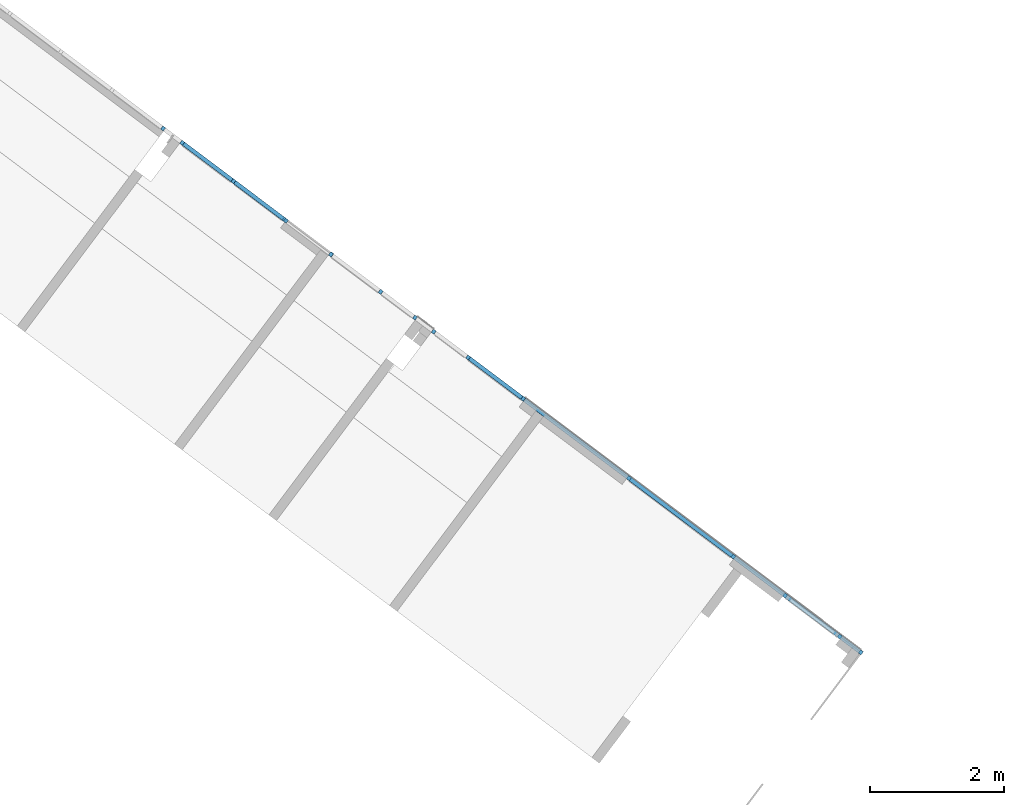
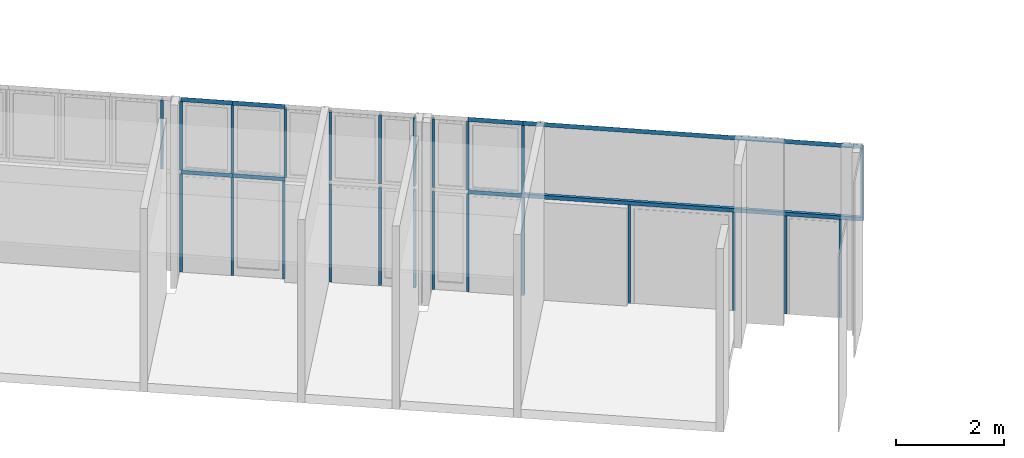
# One storey, part 2 of 18: 32 members, 6 elements without a shape of their own.
"""IFC2X3 building model written with IfcOpenShell, lengths in metres."""

from ifc_helpers import new_model, entity, si_unit, converted_unit, derived_unit, direction, frame, frame_2d, origin, origin_2d_with_axis, place, context, subcontext, project, spatial, polyline, rectangle, outline, extrude, source, transform, mapped, material, type_object, type_shapes, element, aggregate, save


model = new_model("IFC2X3")

# Units and contexts
model_context = context("Model", 3, precision=1e-05, world=origin(), true_north=direction((6.123031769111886e-17, 1.0)))
body_context = subcontext(model_context, "Body", "Model", "MODEL_VIEW")
ifc_project = project(units=[si_unit("LENGTHUNIT", "METRE"), si_unit("AREAUNIT", "SQUARE_METRE"), si_unit("VOLUMEUNIT", "CUBIC_METRE"), converted_unit("PLANEANGLEUNIT", "DEGREE", entity("IfcRatioMeasure", 0.017453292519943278), si_unit("PLANEANGLEUNIT", "RADIAN"), dimensions=[0, 0, 0, 0, 0, 0, 0]), si_unit("MASSUNIT", "GRAM", prefix="KILO"), derived_unit("MASSDENSITYUNIT", [(si_unit("MASSUNIT", "GRAM", prefix="KILO"), 1), (si_unit("LENGTHUNIT", "METRE"), -3)]), derived_unit("IONCONCENTRATIONUNIT", [(si_unit("MASSUNIT", "GRAM", prefix="KILO"), 1), (si_unit("LENGTHUNIT", "METRE"), -3)]), derived_unit("MOMENTOFINERTIAUNIT", [(si_unit("LENGTHUNIT", "METRE"), 4)]), si_unit("TIMEUNIT", "SECOND"), si_unit("FREQUENCYUNIT", "HERTZ"), si_unit("THERMODYNAMICTEMPERATUREUNIT", "DEGREE_CELSIUS"), derived_unit("THERMALTRANSMITTANCEUNIT", [(si_unit("MASSUNIT", "GRAM", prefix="KILO"), 1), (si_unit("THERMODYNAMICTEMPERATUREUNIT", "KELVIN"), -1), (si_unit("TIMEUNIT", "SECOND"), -3)]), derived_unit("THERMALCONDUCTANCEUNIT", [(si_unit("MASSUNIT", "GRAM", prefix="KILO"), 1), (si_unit("THERMODYNAMICTEMPERATUREUNIT", "KELVIN"), -1), (si_unit("TIMEUNIT", "SECOND"), -3), (si_unit("LENGTHUNIT", "METRE"), 1)]), derived_unit("VOLUMETRICFLOWRATEUNIT", [(si_unit("LENGTHUNIT", "METRE"), 3), (si_unit("TIMEUNIT", "SECOND"), -1)]), derived_unit("MASSFLOWRATEUNIT", [(si_unit("MASSUNIT", "GRAM", prefix="KILO"), 1), (si_unit("TIMEUNIT", "SECOND"), -1)]), derived_unit("ROTATIONALFREQUENCYUNIT", [(si_unit("TIMEUNIT", "SECOND"), -1)]), si_unit("ELECTRICCURRENTUNIT", "AMPERE"), si_unit("ELECTRICVOLTAGEUNIT", "VOLT"), si_unit("POWERUNIT", "WATT"), si_unit("FORCEUNIT", "NEWTON", prefix="KILO"), si_unit("ILLUMINANCEUNIT", "LUX"), si_unit("LUMINOUSFLUXUNIT", "LUMEN"), si_unit("LUMINOUSINTENSITYUNIT", "CANDELA"), derived_unit("USERDEFINED", [(si_unit("MASSUNIT", "GRAM", prefix="KILO"), -1), (si_unit("LENGTHUNIT", "METRE"), -2), (si_unit("TIMEUNIT", "SECOND"), 3), (si_unit("LUMINOUSFLUXUNIT", "LUMEN"), 1)]), derived_unit("USERDEFINED", [(si_unit("MASSUNIT", "GRAM", prefix="KILO"), 1), (si_unit("TIMEUNIT", "SECOND"), -3), (si_unit("LENGTHUNIT", "METRE"), 3), (si_unit("ELECTRICCURRENTUNIT", "AMPERE"), -2)]), derived_unit("SOUNDPOWERUNIT", [(si_unit("MASSUNIT", "GRAM", prefix="KILO"), 1), (si_unit("TIMEUNIT", "SECOND"), -3), (si_unit("LENGTHUNIT", "METRE"), 2)]), derived_unit("SOUNDPRESSUREUNIT", [(si_unit("MASSUNIT", "GRAM", prefix="KILO"), 1), (si_unit("LENGTHUNIT", "METRE"), -1), (si_unit("TIMEUNIT", "SECOND"), -2)]), derived_unit("LINEARVELOCITYUNIT", [(si_unit("LENGTHUNIT", "METRE"), 1), (si_unit("TIMEUNIT", "SECOND"), -1)]), si_unit("PRESSUREUNIT", "PASCAL"), derived_unit("USERDEFINED", [(si_unit("MASSUNIT", "GRAM", prefix="KILO"), 1), (si_unit("LENGTHUNIT", "METRE"), -2), (si_unit("TIMEUNIT", "SECOND"), -2)]), derived_unit("LINEARFORCEUNIT", [(si_unit("MASSUNIT", "GRAM", prefix="KILO"), 1), (si_unit("TIMEUNIT", "SECOND"), -2)]), derived_unit("PLANARFORCEUNIT", [(si_unit("MASSUNIT", "GRAM", prefix="KILO"), 1), (si_unit("LENGTHUNIT", "METRE"), -1), (si_unit("TIMEUNIT", "SECOND"), -2)]), derived_unit("SPECIFICHEATCAPACITYUNIT", [(si_unit("THERMODYNAMICTEMPERATUREUNIT", "KELVIN"), -1), (si_unit("LENGTHUNIT", "METRE"), 2), (si_unit("TIMEUNIT", "SECOND"), -2)]), derived_unit("HEATINGVALUEUNIT", [(si_unit("LENGTHUNIT", "METRE"), 2), (si_unit("TIMEUNIT", "SECOND"), -2)]), derived_unit("VAPORPERMEABILITYUNIT", [(si_unit("LENGTHUNIT", "METRE"), -1), (si_unit("TIMEUNIT", "SECOND"), 1)]), derived_unit("DYNAMICVISCOSITYUNIT", [(si_unit("MASSUNIT", "GRAM", prefix="KILO"), 1), (si_unit("TIMEUNIT", "SECOND"), -1), (si_unit("LENGTHUNIT", "METRE"), -1)]), derived_unit("THERMALEXPANSIONCOEFFICIENTUNIT", [(si_unit("THERMODYNAMICTEMPERATUREUNIT", "KELVIN"), -1)]), derived_unit("MODULUSOFELASTICITYUNIT", [(si_unit("MASSUNIT", "GRAM", prefix="KILO"), 1), (si_unit("LENGTHUNIT", "METRE"), -1), (si_unit("TIMEUNIT", "SECOND"), -2)]), derived_unit("ISOTHERMALMOISTURECAPACITYUNIT", [(si_unit("LENGTHUNIT", "METRE"), 3), (si_unit("MASSUNIT", "GRAM", prefix="KILO"), -1)]), derived_unit("MOISTUREDIFFUSIVITYUNIT", [(si_unit("TIMEUNIT", "SECOND"), -1), (si_unit("LENGTHUNIT", "METRE"), 2)])], contexts=[model_context])

# Site, building, storey
site_placement = place(None, frame((0.0, 0.0, 235.0), z_axis=(0.0, 0.0, 1.0), x_axis=(-0.7996477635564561, 0.6004693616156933, 0.0)))
site = spatial("IfcSite", under=ifc_project, at=site_placement, Name="Default", CompositionType="ELEMENT")
building_placement = place(site_placement, origin())
building = spatial("IfcBuilding", under=site, at=building_placement, CompositionType="ELEMENT")
storey_placement = place(building_placement, frame((0.0, 0.0, -4.459999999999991)))
storey = spatial("IfcBuildingStorey", under=building, at=storey_placement, Name="PS1- Vestuari", CompositionType="ELEMENT", Elevation=-4.459999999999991)

# Curtain wall, members
curtain_wall_type = type_object("IfcCurtainWallType", Name="Muro cortina:MC- EXT- AL6", PredefinedType="NOTDEFINED")
curtain_wall_1_placement = place(storey_placement, frame((0.0, 0.0, 4.459999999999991)))
curtain_wall_1 = element("IfcCurtainWall", 1, at=curtain_wall_1_placement, inside=storey, type_object=curtain_wall_type, Name="Muro cortina:MC- EXT- AL6", ObjectType="Muro cortina:MC- EXT- AL6")
ifc_material = material(Name="_Alumini- T1- Perfil")
member_type_1 = type_object("IfcMemberType", Name="Montante rectangular:MC- Alu- 52x80 cm- Fa pista- inferior", PredefinedType="MULLION", material=ifc_material)
shared_shape_1 = source(origin(), body_context, "Body", "SweptSolid", [
    extrude(rectangle(XDim=0.06000000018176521, YDim=0.085, at=origin_2d_with_axis()), frame((-0.0425, -0.030000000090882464, -6.335500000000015), z_axis=(0.0, 0.0, 1.0), x_axis=(0.0, -1.0, 0.0)), (0.0, 0.0, 1.0), 6.335500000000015),
])
type_shapes(member_type_1, [shared_shape_1])
member_1_placement = place(curtain_wall_1_placement, frame((41.015147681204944, -40.465191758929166, -2.2499999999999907), z_axis=(-1.0, 0.0, 0.0), x_axis=(0.0, 0.0, -1.0)))
member_1 = element("IfcMember", 2, at=member_1_placement, type_object=member_type_1, material=ifc_material, Name="Montante rectangular:MC- Alu- 52x80 cm- Fa pista- inferior", ObjectType="Montante rectangular:MC- Alu- 52x80 cm- Fa pista- inferior", context=body_context, shape_type="MappedRepresentation", body=[
    mapped(shared_shape_1, transform((0.0, 0.0, 0.0), scale=1.0)),
])
member_type_2 = type_object("IfcMemberType", Name="Montante rectangular:MC- Alu- 50x60 cm- Fa pista- Centre", PredefinedType="MULLION", material=ifc_material)
shared_shape_2 = source(origin(), body_context, "Body", "SweptSolid", [
    extrude(rectangle(XDim=0.0600000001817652, YDim=0.05, at=frame_2d((8.673617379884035e-18, 0.0), x_axis=(1.0, 0.0))), frame((0.0, -0.030000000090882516, -1.5474999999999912), z_axis=(0.0, 0.0, 1.0), x_axis=(0.0, -1.0, 0.0)), (0.0, 0.0, 1.0), 1.5474999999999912),
])
type_shapes(member_type_2, [shared_shape_2])
member_2_placement = place(curtain_wall_1_placement, frame((54.07614768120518, -40.4651917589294, -2.164999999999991), z_axis=(0.0, 0.0, -1.0), x_axis=(1.0, 0.0, 0.0)))
member_2 = element("IfcMember", 3, at=member_2_placement, type_object=member_type_2, material=ifc_material, Name="Montante rectangular:MC- Alu- 50x60 cm- Fa pista- Centre", ObjectType="Montante rectangular:MC- Alu- 50x60 cm- Fa pista- Centre", context=body_context, shape_type="MappedRepresentation", body=[
    mapped(shared_shape_2, transform((0.0, 0.0, 0.0), scale=1.0)),
])
member_3_placement = place(curtain_wall_1_placement, frame((53.72014768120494, -40.46519175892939, -2.164999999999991), z_axis=(0.0, 0.0, -1.0), x_axis=(1.0, 0.0, 0.0)))
member_3 = element("IfcMember", 4, at=member_3_placement, type_object=member_type_2, material=ifc_material, Name="Montante rectangular:MC- Alu- 50x60 cm- Fa pista- Centre", ObjectType="Montante rectangular:MC- Alu- 50x60 cm- Fa pista- Centre", context=body_context, shape_type="MappedRepresentation", body=[
    mapped(shared_shape_2, transform((0.0, 0.0, 0.0), scale=1.0)),
])
member_4_placement = place(curtain_wall_1_placement, frame((51.78114768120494, -40.46519175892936, -2.164999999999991), z_axis=(0.0, 0.0, -1.0), x_axis=(1.0, 0.0, 0.0)))
member_4 = element("IfcMember", 5, at=member_4_placement, type_object=member_type_2, material=ifc_material, Name="Montante rectangular:MC- Alu- 50x60 cm- Fa pista- Centre", ObjectType="Montante rectangular:MC- Alu- 50x60 cm- Fa pista- Centre", context=body_context, shape_type="MappedRepresentation", body=[
    mapped(shared_shape_2, transform((0.0, 0.0, 0.0), scale=1.0)),
])
member_5_placement = place(curtain_wall_1_placement, frame((52.76314768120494, -40.46519175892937, -2.164999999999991), z_axis=(0.0, 0.0, -1.0), x_axis=(1.0, 0.0, 0.0)))
member_5 = element("IfcMember", 6, at=member_5_placement, type_object=member_type_2, material=ifc_material, Name="Montante rectangular:MC- Alu- 50x60 cm- Fa pista- Centre", ObjectType="Montante rectangular:MC- Alu- 50x60 cm- Fa pista- Centre", context=body_context, shape_type="MappedRepresentation", body=[
    mapped(shared_shape_2, transform((0.0, 0.0, 0.0), scale=1.0)),
])
member_6_placement = place(curtain_wall_1_placement, frame((50.94114768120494, -40.46519175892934, -2.164999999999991), z_axis=(0.0, 0.0, -1.0), x_axis=(1.0, 0.0, 0.0)))
member_6 = element("IfcMember", 7, at=member_6_placement, type_object=member_type_2, material=ifc_material, Name="Montante rectangular:MC- Alu- 50x60 cm- Fa pista- Centre", ObjectType="Montante rectangular:MC- Alu- 50x60 cm- Fa pista- Centre", context=body_context, shape_type="MappedRepresentation", body=[
    mapped(shared_shape_2, transform((0.0, 0.0, 0.0), scale=1.0)),
])
member_7_placement = place(curtain_wall_1_placement, frame((50.012147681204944, -40.46519175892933, -2.164999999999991), z_axis=(0.0, 0.0, -1.0), x_axis=(1.0, 0.0, 0.0)))
member_7 = element("IfcMember", 8, at=member_7_placement, type_object=member_type_2, material=ifc_material, Name="Montante rectangular:MC- Alu- 50x60 cm- Fa pista- Centre", ObjectType="Montante rectangular:MC- Alu- 50x60 cm- Fa pista- Centre", context=body_context, shape_type="MappedRepresentation", body=[
    mapped(shared_shape_2, transform((0.0, 0.0, 0.0), scale=1.0)),
])
member_8_placement = place(curtain_wall_1_placement, frame((49.37014768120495, -40.465191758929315, -2.164999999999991), z_axis=(0.0, 0.0, -1.0), x_axis=(1.0, 0.0, 0.0)))
member_8 = element("IfcMember", 9, at=member_8_placement, type_object=member_type_2, material=ifc_material, Name="Montante rectangular:MC- Alu- 50x60 cm- Fa pista- Centre", ObjectType="Montante rectangular:MC- Alu- 50x60 cm- Fa pista- Centre", context=body_context, shape_type="MappedRepresentation", body=[
    mapped(shared_shape_2, transform((0.0, 0.0, 0.0), scale=1.0)),
])
member_9_placement = place(curtain_wall_1_placement, frame((49.020147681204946, -40.46519175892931, -2.164999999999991), z_axis=(0.0, 0.0, -1.0), x_axis=(1.0, 0.0, 0.0)))
member_9 = element("IfcMember", 10, at=member_9_placement, type_object=member_type_2, material=ifc_material, Name="Montante rectangular:MC- Alu- 50x60 cm- Fa pista- Centre", ObjectType="Montante rectangular:MC- Alu- 50x60 cm- Fa pista- Centre", context=body_context, shape_type="MappedRepresentation", body=[
    mapped(shared_shape_2, transform((0.0, 0.0, 0.0), scale=1.0)),
])
member_10_placement = place(curtain_wall_1_placement, frame((48.378147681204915, -40.4651917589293, -2.164999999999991), z_axis=(0.0, 0.0, -1.0), x_axis=(1.0, 0.0, 0.0)))
member_10 = element("IfcMember", 11, at=member_10_placement, type_object=member_type_2, material=ifc_material, Name="Montante rectangular:MC- Alu- 50x60 cm- Fa pista- Centre", ObjectType="Montante rectangular:MC- Alu- 50x60 cm- Fa pista- Centre", context=body_context, shape_type="MappedRepresentation", body=[
    mapped(shared_shape_2, transform((0.0, 0.0, 0.0), scale=1.0)),
])
member_11_placement = place(curtain_wall_1_placement, frame((47.35064768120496, -40.46519175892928, -2.164999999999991), z_axis=(0.0, 0.0, -1.0), x_axis=(1.0, 0.0, 0.0)))
member_11 = element("IfcMember", 12, at=member_11_placement, type_object=member_type_2, material=ifc_material, Name="Montante rectangular:MC- Alu- 50x60 cm- Fa pista- Centre", ObjectType="Montante rectangular:MC- Alu- 50x60 cm- Fa pista- Centre", context=body_context, shape_type="MappedRepresentation", body=[
    mapped(shared_shape_2, transform((0.0, 0.0, 0.0), scale=1.0)),
])
member_type_3 = type_object("IfcMemberType", Name="Montante rectangular:MC- Alu- 140x52,5 cm- Fa pista- Superior", PredefinedType="MULLION", material=ifc_material)
shared_shape_3 = source(origin(), body_context, "Body", "SweptSolid", [
    extrude(outline(polyline([(-0.03933333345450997, -0.04916666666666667), (0.02066666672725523, -0.04916666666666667), (0.020666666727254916, 0.048333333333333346), (0.018666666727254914, 0.04833333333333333), (0.018666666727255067, 0.00083333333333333), (-0.03933333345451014, 0.00083333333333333), (-0.03933333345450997, -0.04916666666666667)])), frame((-0.048333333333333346, -0.03933333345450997, -0.9570000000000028), z_axis=(0.0, 0.0, 1.0), x_axis=(0.0, -1.0, 0.0)), (0.0, 0.0, 1.0), 0.9569999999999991),
])
type_shapes(member_type_3, [shared_shape_3])
member_12_placement = place(curtain_wall_1_placement, frame((53.72014768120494, -40.46519175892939, -0.52), z_axis=(1.0, 0.0, 0.0), x_axis=(0.0, 0.0, 1.0)))
member_12 = element("IfcMember", 13, at=member_12_placement, type_object=member_type_3, material=ifc_material, Name="Montante rectangular:MC- Alu- 140x52,5 cm- Fa pista- Superior", ObjectType="Montante rectangular:MC- Alu- 140x52,5 cm- Fa pista- Superior", context=body_context, shape_type="MappedRepresentation", body=[
    mapped(shared_shape_3, transform((0.0, 0.0, 0.0), scale=1.0)),
])
member_type_4 = type_object("IfcMemberType", Name="Montante rectangular:MC- Alu- 52x80 cm- Fa pista- inferior", PredefinedType="MULLION", material=ifc_material)
shared_shape_4 = source(origin(), body_context, "Body", "SweptSolid", [
    extrude(rectangle(XDim=0.06000000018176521, YDim=0.085, at=origin_2d_with_axis()), frame((-0.0425, -0.030000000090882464, -0.9820000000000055), z_axis=(0.0, 0.0, 1.0), x_axis=(0.0, -1.0, 0.0)), (0.0, 0.0, 1.0), 0.982000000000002),
])
type_shapes(member_type_4, [shared_shape_4])
member_13_placement = place(curtain_wall_1_placement, frame((51.78114768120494, -40.46519175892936, -2.249999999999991), z_axis=(-1.0, 0.0, 0.0), x_axis=(0.0, 0.0, -1.0)))
member_13 = element("IfcMember", 14, at=member_13_placement, type_object=member_type_4, material=ifc_material, Name="Montante rectangular:MC- Alu- 52x80 cm- Fa pista- inferior", ObjectType="Montante rectangular:MC- Alu- 52x80 cm- Fa pista- inferior", context=body_context, shape_type="MappedRepresentation", body=[
    mapped(shared_shape_4, transform((0.0, 0.0, 0.0), scale=1.0)),
])
member_type_5 = type_object("IfcMemberType", Name="Montante rectangular:MC- Alu- 140x52,5 cm- Fa pista- Superior", PredefinedType="MULLION", material=ifc_material)
shared_shape_5 = source(origin(), body_context, "Body", "SweptSolid", [
    extrude(outline(polyline([(-0.03933333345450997, -0.04916666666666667), (0.02066666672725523, -0.04916666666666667), (0.020666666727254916, 0.048333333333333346), (0.018666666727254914, 0.04833333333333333), (0.018666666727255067, 0.00083333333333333), (-0.03933333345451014, 0.00083333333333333), (-0.03933333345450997, -0.04916666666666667)])), frame((-0.048333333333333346, -0.03933333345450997, -0.9819999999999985), z_axis=(0.0, 0.0, 1.0), x_axis=(0.0, -1.0, 0.0)), (0.0, 0.0, 1.0), 0.982000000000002),
])
type_shapes(member_type_5, [shared_shape_5])
member_14_placement = place(curtain_wall_1_placement, frame((52.76314768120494, -40.465191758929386, -0.52), z_axis=(1.0, 0.0, 0.0), x_axis=(0.0, 0.0, 1.0)))
member_14 = element("IfcMember", 15, at=member_14_placement, type_object=member_type_5, material=ifc_material, Name="Montante rectangular:MC- Alu- 140x52,5 cm- Fa pista- Superior", ObjectType="Montante rectangular:MC- Alu- 140x52,5 cm- Fa pista- Superior", context=body_context, shape_type="MappedRepresentation", body=[
    mapped(shared_shape_5, transform((0.0, 0.0, 0.0), scale=1.0)),
])
member_type_6 = type_object("IfcMemberType", Name="Montante rectangular:MC- Alu- 52x80 cm- Fa pista- inferior", PredefinedType="MULLION", material=ifc_material)
shared_shape_6 = source(origin(), body_context, "Body", "SweptSolid", [
    extrude(rectangle(XDim=0.06000000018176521, YDim=0.085, at=origin_2d_with_axis()), frame((-0.0425, -0.030000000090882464, -0.9569999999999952), z_axis=(0.0, 0.0, 1.0), x_axis=(0.0, -1.0, 0.0)), (0.0, 0.0, 1.0), 0.9569999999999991),
])
type_shapes(member_type_6, [shared_shape_6])
member_15_placement = place(curtain_wall_1_placement, frame((52.76314768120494, -40.46519175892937, -2.249999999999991), z_axis=(-1.0, 0.0, 0.0), x_axis=(0.0, 0.0, -1.0)))
member_15 = element("IfcMember", 16, at=member_15_placement, type_object=member_type_6, material=ifc_material, Name="Montante rectangular:MC- Alu- 52x80 cm- Fa pista- inferior", ObjectType="Montante rectangular:MC- Alu- 52x80 cm- Fa pista- inferior", context=body_context, shape_type="MappedRepresentation", body=[
    mapped(shared_shape_6, transform((0.0, 0.0, 0.0), scale=1.0)),
])
member_type_7 = type_object("IfcMemberType", Name="Montante rectangular:MC- Alu- 140x52,5 cm- Fa pista- Superior", PredefinedType="MULLION", material=ifc_material)
shared_shape_7 = source(origin(), body_context, "Body", "SweptSolid", [
    extrude(outline(polyline([(-0.03933333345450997, -0.04916666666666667), (0.02066666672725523, -0.04916666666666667), (0.020666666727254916, 0.048333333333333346), (0.018666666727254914, 0.04833333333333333), (0.018666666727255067, 0.00083333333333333), (-0.03933333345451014, 0.00083333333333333), (-0.03933333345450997, -0.04916666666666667)])), frame((-0.048333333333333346, -0.03933333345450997, -1.027499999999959), z_axis=(0.0, 0.0, 1.0), x_axis=(0.0, -1.0, 0.0)), (0.0, 0.0, 1.0), 1.027499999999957),
])
type_shapes(member_type_7, [shared_shape_7])
member_16_placement = place(curtain_wall_1_placement, frame((48.378147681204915, -40.4651917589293, -0.52), z_axis=(1.0, 0.0, 0.0), x_axis=(0.0, 0.0, 1.0)))
member_16 = element("IfcMember", 17, at=member_16_placement, type_object=member_type_7, material=ifc_material, Name="Montante rectangular:MC- Alu- 140x52,5 cm- Fa pista- Superior", ObjectType="Montante rectangular:MC- Alu- 140x52,5 cm- Fa pista- Superior", context=body_context, shape_type="MappedRepresentation", body=[
    mapped(shared_shape_7, transform((0.0, 0.0, 0.0), scale=1.0)),
])
member_type_8 = type_object("IfcMemberType", Name="Montante rectangular:MC- Alu- 52x80 cm- Fa pista- inferior", PredefinedType="MULLION", material=ifc_material)
shared_shape_8 = source(origin(), body_context, "Body", "SweptSolid", [
    extrude(rectangle(XDim=0.06000000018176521, YDim=0.085, at=origin_2d_with_axis()), frame((-0.0425, -0.030000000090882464, -1.0274999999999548), z_axis=(0.0, 0.0, 1.0), x_axis=(0.0, -1.0, 0.0)), (0.0, 0.0, 1.0), 1.027499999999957),
])
type_shapes(member_type_8, [shared_shape_8])
member_17_placement = place(curtain_wall_1_placement, frame((47.35064768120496, -40.46519175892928, -2.249999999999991), z_axis=(-1.0, 0.0, 0.0), x_axis=(0.0, 0.0, -1.0)))
member_17 = element("IfcMember", 18, at=member_17_placement, type_object=member_type_8, material=ifc_material, Name="Montante rectangular:MC- Alu- 52x80 cm- Fa pista- inferior", ObjectType="Montante rectangular:MC- Alu- 52x80 cm- Fa pista- inferior", context=body_context, shape_type="MappedRepresentation", body=[
    mapped(shared_shape_8, transform((0.0, 0.0, 0.0), scale=1.0)),
])
member_type_9 = type_object("IfcMemberType", Name="Montante rectangular:MC- Alu- 140x52,5 cm- Fa pista- Superior", PredefinedType="MULLION", material=ifc_material)
shared_shape_9 = source(origin(), body_context, "Body", "SweptSolid", [
    extrude(outline(polyline([(-0.03933333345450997, -0.04916666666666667), (0.02066666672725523, -0.04916666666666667), (0.020666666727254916, 0.048333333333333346), (0.018666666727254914, 0.04833333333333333), (0.018666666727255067, 0.00083333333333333), (-0.03933333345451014, 0.00083333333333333), (-0.03933333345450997, -0.04916666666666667)])), frame((-0.048333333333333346, -0.03933333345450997, -6.335500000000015), z_axis=(0.0, 0.0, 1.0), x_axis=(0.0, -1.0, 0.0)), (0.0, 0.0, 1.0), 6.335500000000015),
])
type_shapes(member_type_9, [shared_shape_9])
member_18_placement = place(curtain_wall_1_placement, frame((47.35064768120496, -40.46519175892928, -0.52), z_axis=(1.0, 0.0, 0.0), x_axis=(0.0, 0.0, 1.0)))
member_18 = element("IfcMember", 19, at=member_18_placement, type_object=member_type_9, material=ifc_material, Name="Montante rectangular:MC- Alu- 140x52,5 cm- Fa pista- Superior", ObjectType="Montante rectangular:MC- Alu- 140x52,5 cm- Fa pista- Superior", context=body_context, shape_type="MappedRepresentation", body=[
    mapped(shared_shape_9, transform((0.0, 0.0, 0.0), scale=1.0)),
])
member_type_10 = type_object("IfcMemberType", Name="Montante rectangular:MC- Alu- 50x60 cm- Fa pista- Centre", PredefinedType="MULLION", material=ifc_material)
shared_shape_10 = source(origin(), body_context, "Body", "SweptSolid", [
    extrude(rectangle(XDim=0.0600000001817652, YDim=0.05, at=origin_2d_with_axis()), frame((-0.025, -0.030000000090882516, -1.5474999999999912), z_axis=(0.0, 0.0, 1.0), x_axis=(0.0, -1.0, 0.0)), (0.0, 0.0, 1.0), 1.5474999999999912),
])
type_shapes(member_type_10, [shared_shape_10])
member_19_placement = place(curtain_wall_1_placement, frame((41.015147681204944, -40.465191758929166, -0.6174999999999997), z_axis=(0.0, 0.0, 1.0), x_axis=(-1.0, 0.0, 0.0)))
member_19 = element("IfcMember", 20, at=member_19_placement, type_object=member_type_10, material=ifc_material, Name="Montante rectangular:MC- Alu- 50x60 cm- Fa pista- Centre", ObjectType="Montante rectangular:MC- Alu- 50x60 cm- Fa pista- Centre", context=body_context, shape_type="MappedRepresentation", body=[
    mapped(shared_shape_10, transform((0.0, 0.0, 0.0), scale=1.0)),
])
aggregate(curtain_wall_1, [member_1, member_2, member_12, member_3, member_13, member_4, member_14, member_15, member_5, member_6, member_7, member_8, member_9, member_16, member_10, member_17, member_18, member_11, member_19])

curtain_wall_2_placement = place(storey_placement, frame((0.0, 0.0, 4.459999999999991)))
curtain_wall_2 = element("IfcCurtainWall", 21, at=curtain_wall_2_placement, inside=storey, type_object=curtain_wall_type, Name="Muro cortina:MC- EXT- AL6", ObjectType="Muro cortina:MC- EXT- AL6")
member_type_11 = type_object("IfcMemberType", Name="Montante rectangular:MC- Alu- 50x60 cm- Fa pista- Centre", PredefinedType="MULLION", material=ifc_material)
shared_shape_11 = source(origin(), body_context, "Body", "SweptSolid", [
    extrude(rectangle(XDim=0.0600000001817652, YDim=0.05, at=frame_2d((8.673617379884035e-18, 0.0), x_axis=(1.0, 0.0))), frame((0.0, 0.030000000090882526, -2.209941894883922), z_axis=(0.0, 0.0, 1.0), x_axis=(0.0, -1.0, 0.0)), (0.0, 0.0, 1.0), 2.209941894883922),
])
type_shapes(member_type_11, [shared_shape_11])
member_20_placement = place(curtain_wall_2_placement, frame((48.378147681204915, -40.46519175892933, -4.459999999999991), z_axis=(0.0, 0.0, -1.0), x_axis=(-1.0, 0.0, 0.0)))
member_20 = element("IfcMember", 22, at=member_20_placement, type_object=member_type_11, material=ifc_material, Name="Montante rectangular:MC- Alu- 50x60 cm- Fa pista- Centre", ObjectType="Montante rectangular:MC- Alu- 50x60 cm- Fa pista- Centre", context=body_context, shape_type="MappedRepresentation", body=[
    mapped(shared_shape_11, transform((0.0, 0.0, 0.0), scale=1.0)),
])
member_type_12 = type_object("IfcMemberType", Name="Montante rectangular:MC- Alu- 50x60 cm- Fa pista- Centre", PredefinedType="MULLION", material=ifc_material)
shared_shape_12 = source(origin(), body_context, "Body", "SweptSolid", [
    extrude(rectangle(XDim=0.06000000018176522, YDim=0.05, at=origin_2d_with_axis()), frame((-0.025, 0.03000000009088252, -2.2099418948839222), z_axis=(0.0, 0.0, 1.0), x_axis=(0.0, -1.0, 0.0)), (0.0, 0.0, 1.0), 2.2099418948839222),
])
type_shapes(member_type_12, [shared_shape_12])
member_21_placement = place(curtain_wall_2_placement, frame((49.04514768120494, -40.46519175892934, -2.2500581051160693)))
member_21 = element("IfcMember", 23, at=member_21_placement, type_object=member_type_12, material=ifc_material, Name="Montante rectangular:MC- Alu- 50x60 cm- Fa pista- Centre", ObjectType="Montante rectangular:MC- Alu- 50x60 cm- Fa pista- Centre", context=body_context, shape_type="MappedRepresentation", body=[
    mapped(shared_shape_12, transform((0.0, 0.0, 0.0), scale=1.0)),
])

# Curtain wall, member
curtain_wall_3_placement = place(storey_placement, frame((0.0, 0.0, 4.459999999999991)))
curtain_wall_3 = element("IfcCurtainWall", 24, at=curtain_wall_3_placement, inside=storey, type_object=curtain_wall_type, Name="Muro cortina:MC- EXT- AL6", ObjectType="Muro cortina:MC- EXT- AL6")
member_22_placement = place(curtain_wall_3_placement, frame((42.480147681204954, -40.46519175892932, -2.2500581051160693)))
member_22 = element("IfcMember", 25, at=member_22_placement, type_object=member_type_12, material=ifc_material, Name="Montante rectangular:MC- Alu- 50x60 cm- Fa pista- Centre", ObjectType="Montante rectangular:MC- Alu- 50x60 cm- Fa pista- Centre", context=body_context, shape_type="MappedRepresentation", body=[
    mapped(shared_shape_12, transform((0.0, 0.0, 0.0), scale=1.0)),
])

curtain_wall_4_placement = place(storey_placement, frame((0.0, 0.0, 4.459999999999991)))
curtain_wall_4 = element("IfcCurtainWall", 26, at=curtain_wall_4_placement, inside=storey, type_object=curtain_wall_type, Name="Muro cortina:MC- EXT- AL6", ObjectType="Muro cortina:MC- EXT- AL6")
member_type_13 = type_object("IfcMemberType", Name="Montante rectangular:Muntant53x 60 mm", PredefinedType="MULLION", material=ifc_material)
shared_shape_13 = source(origin(), body_context, "Body", "SweptSolid", [
    extrude(rectangle(XDim=0.06499994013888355, YDim=0.05299999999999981, at=frame_2d((-2.0816681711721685e-17, -3.469446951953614e-18), x_axis=(1.0, 0.0))), frame((-0.02649999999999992, -0.02749997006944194, -2.209941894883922), z_axis=(0.0, 0.0, 1.0), x_axis=(0.0, -1.0, 0.0)), (0.0, 0.0, 1.0), 2.209941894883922),
])
type_shapes(member_type_13, [shared_shape_13])
member_23_placement = place(curtain_wall_4_placement, frame((50.96614768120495, -40.46519175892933, -4.459999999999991), z_axis=(0.0, 0.0, -1.0), x_axis=(1.0, 0.0, 0.0)))
member_23 = element("IfcMember", 27, at=member_23_placement, type_object=member_type_13, material=ifc_material, Name="Montante rectangular:Muntant53x 60 mm", ObjectType="Montante rectangular:Muntant53x 60 mm", context=body_context, shape_type="MappedRepresentation", body=[
    mapped(shared_shape_13, transform((0.0, 0.0, 0.0), scale=1.0)),
])

curtain_wall_5_placement = place(storey_placement, frame((0.0, 0.0, 4.459999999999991)))
curtain_wall_5 = element("IfcCurtainWall", 28, at=curtain_wall_5_placement, inside=storey, type_object=curtain_wall_type, Name="Muro cortina:MC- EXT- AL6", ObjectType="Muro cortina:MC- EXT- AL6")
member_type_14 = type_object("IfcMemberType", Name="Montante rectangular:MC- Alu- 50x60 cm- Fa pista- Centre", PredefinedType="MULLION", material=ifc_material)
shared_shape_14 = source(origin(), body_context, "Body", "SweptSolid", [
    extrude(rectangle(XDim=0.0600000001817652, YDim=0.05, at=frame_2d((8.673617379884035e-18, 0.0), x_axis=(1.0, 0.0))), frame((0.0, -0.030000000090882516, -2.209941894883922), z_axis=(0.0, 0.0, 1.0), x_axis=(0.0, -1.0, 0.0)), (0.0, 0.0, 1.0), 2.209941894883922),
])
type_shapes(member_type_14, [shared_shape_14])
member_24_placement = place(curtain_wall_5_placement, frame((52.763147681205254, -40.46519175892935, -4.459999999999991), z_axis=(0.0, 0.0, -1.0), x_axis=(1.0, 0.0, 0.0)))
member_24 = element("IfcMember", 29, at=member_24_placement, type_object=member_type_14, material=ifc_material, Name="Montante rectangular:MC- Alu- 50x60 cm- Fa pista- Centre", ObjectType="Montante rectangular:MC- Alu- 50x60 cm- Fa pista- Centre", context=body_context, shape_type="MappedRepresentation", body=[
    mapped(shared_shape_14, transform((0.0, 0.0, 0.0), scale=1.0)),
])

# Member
member_25_placement = place(curtain_wall_4_placement, frame((50.012147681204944, -40.46519175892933, -4.459999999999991), z_axis=(0.0, 0.0, -1.0), x_axis=(1.0, 0.0, 0.0)))
member_25 = element("IfcMember", 30, at=member_25_placement, type_object=member_type_14, material=ifc_material, Name="Montante rectangular:MC- Alu- 50x60 cm- Fa pista- Centre", ObjectType="Montante rectangular:MC- Alu- 50x60 cm- Fa pista- Centre", context=body_context, shape_type="MappedRepresentation", body=[
    mapped(shared_shape_14, transform((0.0, 0.0, 0.0), scale=1.0)),
])

member_type_15 = type_object("IfcMemberType", Name="Montante rectangular:MC- Alu- 50x60 cm- Fa pista- Centre", PredefinedType="MULLION", material=ifc_material)
shared_shape_15 = source(origin(), body_context, "Body", "SweptSolid", [
    extrude(rectangle(XDim=0.0600000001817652, YDim=0.05, at=origin_2d_with_axis()), frame((-0.025, -0.030000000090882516, -2.209941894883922), z_axis=(0.0, 0.0, 1.0), x_axis=(0.0, -1.0, 0.0)), (0.0, 0.0, 1.0), 2.209941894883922),
])
type_shapes(member_type_15, [shared_shape_15])
member_26_placement = place(curtain_wall_5_placement, frame((51.78114768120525, -40.46519175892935, -2.2500581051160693), z_axis=(0.0, 0.0, 1.0), x_axis=(-1.0, 0.0, 0.0)))
member_26 = element("IfcMember", 31, at=member_26_placement, type_object=member_type_15, material=ifc_material, Name="Montante rectangular:MC- Alu- 50x60 cm- Fa pista- Centre", ObjectType="Montante rectangular:MC- Alu- 50x60 cm- Fa pista- Centre", context=body_context, shape_type="MappedRepresentation", body=[
    mapped(shared_shape_15, transform((0.0, 0.0, 0.0), scale=1.0)),
])

member_27_placement = place(curtain_wall_4_placement, frame((49.345147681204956, -40.46519175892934, -2.2500581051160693), z_axis=(0.0, 0.0, 1.0), x_axis=(-1.0, 0.0, 0.0)))
member_27 = element("IfcMember", 32, at=member_27_placement, type_object=member_type_15, material=ifc_material, Name="Montante rectangular:MC- Alu- 50x60 cm- Fa pista- Centre", ObjectType="Montante rectangular:MC- Alu- 50x60 cm- Fa pista- Centre", context=body_context, shape_type="MappedRepresentation", body=[
    mapped(shared_shape_15, transform((0.0, 0.0, 0.0), scale=1.0)),
])

aggregate(curtain_wall_4, [member_23, member_25, member_27])

member_type_16 = type_object("IfcMemberType", Name="Montante rectangular:MC- Alu- 50x60 cm- Fa pista- Centre", PredefinedType="MULLION", material=ifc_material)
shared_shape_16 = source(origin(), body_context, "Body", "SweptSolid", [
    extrude(rectangle(XDim=0.06000000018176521, YDim=0.05, at=frame_2d((3.469446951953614e-18, 0.0), x_axis=(1.0, 0.0))), frame((-0.025, -0.030000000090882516, -2.209941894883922), z_axis=(0.0, 0.0, 1.0), x_axis=(0.0, -1.0, 0.0)), (0.0, 0.0, 1.0), 2.209941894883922),
])
type_shapes(member_type_16, [shared_shape_16])
member_28_placement = place(curtain_wall_5_placement, frame((53.74514768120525, -40.46519175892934, -4.459999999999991), z_axis=(0.0, 0.0, -1.0), x_axis=(1.0, 0.0, 0.0)))
member_28 = element("IfcMember", 33, at=member_28_placement, type_object=member_type_16, material=ifc_material, Name="Montante rectangular:MC- Alu- 50x60 cm- Fa pista- Centre", ObjectType="Montante rectangular:MC- Alu- 50x60 cm- Fa pista- Centre", context=body_context, shape_type="MappedRepresentation", body=[
    mapped(shared_shape_16, transform((0.0, 0.0, 0.0), scale=1.0)),
])

aggregate(curtain_wall_5, [member_28, member_24, member_26])

member_type_17 = type_object("IfcMemberType", Name="Montante rectangular:MC- Alu- 50x60 cm- Fa pista- Centre", PredefinedType="MULLION", material=ifc_material)
shared_shape_17 = source(origin(), body_context, "Body", "SweptSolid", [
    extrude(rectangle(XDim=0.060000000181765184, YDim=0.05, at=frame_2d((3.469446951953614e-18, 0.0), x_axis=(1.0, 0.0))), frame((-0.025, 0.030000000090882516, -2.2099418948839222), z_axis=(0.0, 0.0, 1.0), x_axis=(0.0, -1.0, 0.0)), (0.0, 0.0, 1.0), 2.2099418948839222),
])
type_shapes(member_type_17, [shared_shape_17])
member_29_placement = place(curtain_wall_2_placement, frame((47.32414768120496, -40.46519175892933, -4.459999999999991), z_axis=(0.0, 0.0, -1.0), x_axis=(-1.0, 0.0, 0.0)))
member_29 = element("IfcMember", 34, at=member_29_placement, type_object=member_type_17, material=ifc_material, Name="Montante rectangular:MC- Alu- 50x60 cm- Fa pista- Centre", ObjectType="Montante rectangular:MC- Alu- 50x60 cm- Fa pista- Centre", context=body_context, shape_type="MappedRepresentation", body=[
    mapped(shared_shape_17, transform((0.0, 0.0, 0.0), scale=1.0)),
])

aggregate(curtain_wall_2, [member_29, member_20, member_21])

member_30_placement = place(curtain_wall_3_placement, frame((41.41014768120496, -40.465191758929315, -4.459999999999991), z_axis=(0.0, 0.0, -1.0), x_axis=(-1.0, 0.0, 0.0)))
member_30 = element("IfcMember", 35, at=member_30_placement, type_object=member_type_17, material=ifc_material, Name="Montante rectangular:MC- Alu- 50x60 cm- Fa pista- Centre", ObjectType="Montante rectangular:MC- Alu- 50x60 cm- Fa pista- Centre", context=body_context, shape_type="MappedRepresentation", body=[
    mapped(shared_shape_17, transform((0.0, 0.0, 0.0), scale=1.0)),
])

aggregate(curtain_wall_3, [member_30, member_22])

# Curtain wall, members
curtain_wall_6_placement = place(storey_placement, frame((0.0, 0.0, 4.459999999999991)))
curtain_wall_6 = element("IfcCurtainWall", 36, at=curtain_wall_6_placement, inside=storey, type_object=curtain_wall_type, Name="Muro cortina:MC- EXT- AL6", ObjectType="Muro cortina:MC- EXT- AL6")
member_type_18 = type_object("IfcMemberType", Name="Montante rectangular:MC- Alu- 50x60 cm- Fa pista- Centre", PredefinedType="MULLION", material=ifc_material)
shared_shape_18 = source(origin(), body_context, "Body", "SweptSolid", [
    extrude(rectangle(XDim=0.060000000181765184, YDim=0.05, at=frame_2d((3.469446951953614e-18, 0.0), x_axis=(1.0, 0.0))), frame((-0.025, 0.030000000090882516, -2.229941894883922), z_axis=(0.0, 0.0, 1.0), x_axis=(0.0, -1.0, 0.0)), (0.0, 0.0, 1.0), 2.229941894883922),
])
type_shapes(member_type_18, [shared_shape_18])
member_31_placement = place(curtain_wall_6_placement, frame((43.398147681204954, -40.46519175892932, -4.479999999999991), z_axis=(0.0, 0.0, -1.0), x_axis=(-1.0, 0.0, 0.0)))
member_31 = element("IfcMember", 37, at=member_31_placement, type_object=member_type_18, material=ifc_material, Name="Montante rectangular:MC- Alu- 50x60 cm- Fa pista- Centre", ObjectType="Montante rectangular:MC- Alu- 50x60 cm- Fa pista- Centre", context=body_context, shape_type="MappedRepresentation", body=[
    mapped(shared_shape_18, transform((0.0, 0.0, 0.0), scale=1.0)),
])
member_type_19 = type_object("IfcMemberType", Name="Montante rectangular:MC- Alu- 50x60 cm- Fa pista- Centre", PredefinedType="MULLION", material=ifc_material)
shared_shape_19 = source(origin(), body_context, "Body", "SweptSolid", [
    extrude(rectangle(XDim=0.06000000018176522, YDim=0.05, at=frame_2d((-3.469446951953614e-18, 0.0), x_axis=(1.0, 0.0))), frame((-0.025, 0.030000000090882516, -2.229941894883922), z_axis=(0.0, 0.0, 1.0), x_axis=(0.0, -1.0, 0.0)), (0.0, 0.0, 1.0), 2.229941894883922),
])
type_shapes(member_type_19, [shared_shape_19])
member_32_placement = place(curtain_wall_6_placement, frame((45.398147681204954, -40.46519175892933, -2.2500581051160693)))
member_32 = element("IfcMember", 38, at=member_32_placement, type_object=member_type_19, material=ifc_material, Name="Montante rectangular:MC- Alu- 50x60 cm- Fa pista- Centre", ObjectType="Montante rectangular:MC- Alu- 50x60 cm- Fa pista- Centre", context=body_context, shape_type="MappedRepresentation", body=[
    mapped(shared_shape_19, transform((0.0, 0.0, 0.0), scale=1.0)),
])
aggregate(curtain_wall_6, [member_31, member_32])

save(model, "model.ifc")
